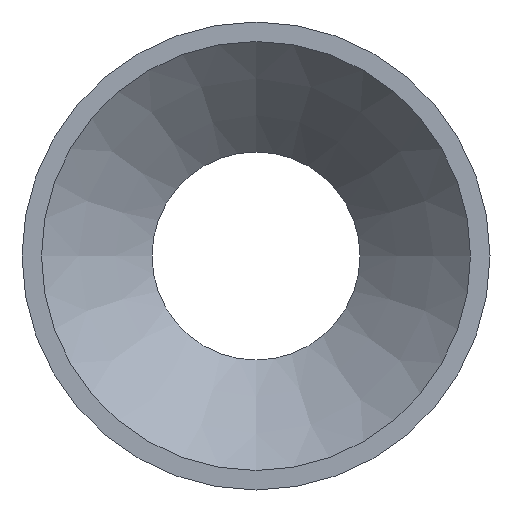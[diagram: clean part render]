
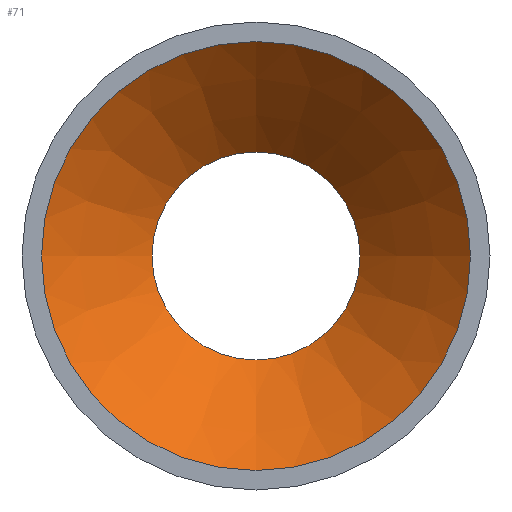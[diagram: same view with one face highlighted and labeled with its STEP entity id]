
A CAD part, left-side view. The second image highlights one B-rep face of the part: STEP entity #71.
In plain terms, the highlighted conical face has half-angle 45 degrees and reference radius 8.25 mm.
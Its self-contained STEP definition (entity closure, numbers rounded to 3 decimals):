
#22=CONICAL_SURFACE('',#91,8.25,0.785);
#25=ORIENTED_EDGE('',*,*,#35,.T.);
#26=ORIENTED_EDGE('',*,*,#33,.F.);
#33=EDGE_CURVE('',#38,#38,#43,.T.);
#35=EDGE_CURVE('',#40,#40,#45,.T.);
#38=VERTEX_POINT('',#123);
#40=VERTEX_POINT('',#128);
#43=CIRCLE('',#89,8.25);
#45=CIRCLE('',#92,4.);
#50=EDGE_LOOP('',(#25));
#51=EDGE_LOOP('',(#26));
#60=FACE_BOUND('',#50,.T.);
#61=FACE_BOUND('',#51,.T.);
#71=ADVANCED_FACE('',(#60,#61),#22,.F.);
#89=AXIS2_PLACEMENT_3D('',#122,#102,#103);
#91=AXIS2_PLACEMENT_3D('',#126,#106,#107);
#92=AXIS2_PLACEMENT_3D('',#127,#108,#109);
#102=DIRECTION('',(1.,0.,0.));
#103=DIRECTION('',(0.,0.,-1.));
#106=DIRECTION('',(-1.,0.,0.));
#107=DIRECTION('',(0.,0.,1.));
#108=DIRECTION('',(1.,0.,0.));
#109=DIRECTION('',(0.,0.,-1.));
#122=CARTESIAN_POINT('',(0.,0.,0.));
#123=CARTESIAN_POINT('',(0.,0.,-8.25));
#126=CARTESIAN_POINT('',(0.,0.,0.));
#127=CARTESIAN_POINT('',(4.25,0.,0.));
#128=CARTESIAN_POINT('',(4.25,0.,-4.));
